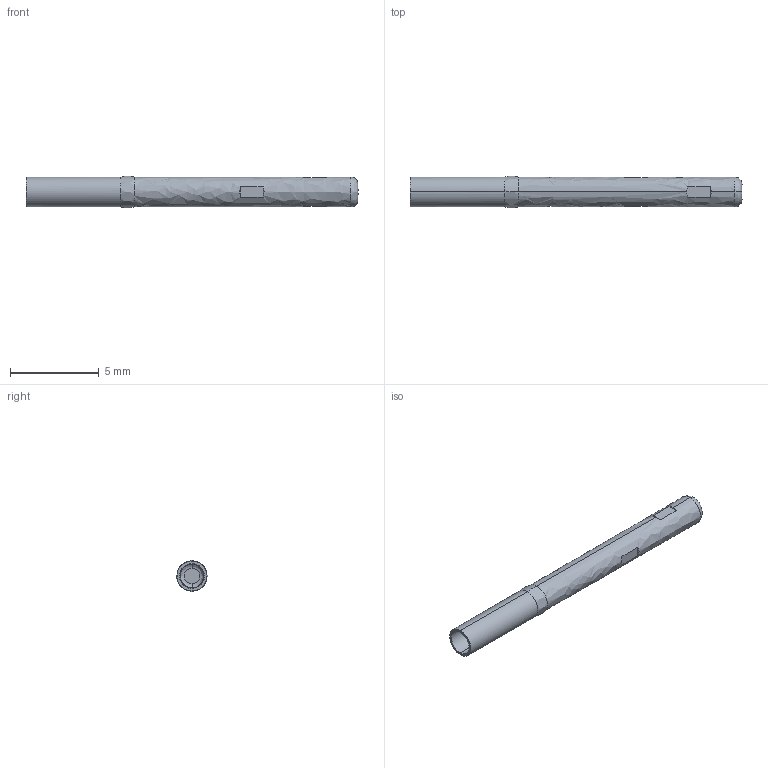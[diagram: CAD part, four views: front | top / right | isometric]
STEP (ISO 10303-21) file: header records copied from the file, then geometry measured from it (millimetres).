
FILE_DESCRIPTION (( 'STEP AP214' ), '1' );
FILE_NAME ('RA3P.STEP', '2024-02-12T10:21:11', ( '' ), ( '' ), 'SwSTEP 2.0', 'SolidWorks 2022', '' );
FILE_SCHEMA (( 'AUTOMOTIVE_DESIGN' ));
Length unit declared in the file: inch
Products named in the file (1): RA3P
Bounding box: 18.67 x 1.77 x 1.77 mm (x, y, z)
Volume: 12.7 mm3; surface area: 183 mm2
Topology: 1 solids, 1 shells, 43 faces, 96 edges, 60 vertices
Faces by surface type: bspline 43
Entity records: 1346 total; most frequent: CARTESIAN_POINT 714, ORIENTED_EDGE 192, EDGE_CURVE 96, B_SPLINE_CURVE_WITH_KNOTS 71, VERTEX_POINT 60, EDGE_LOOP 48, ADVANCED_FACE 43, FACE_OUTER_BOUND 43
